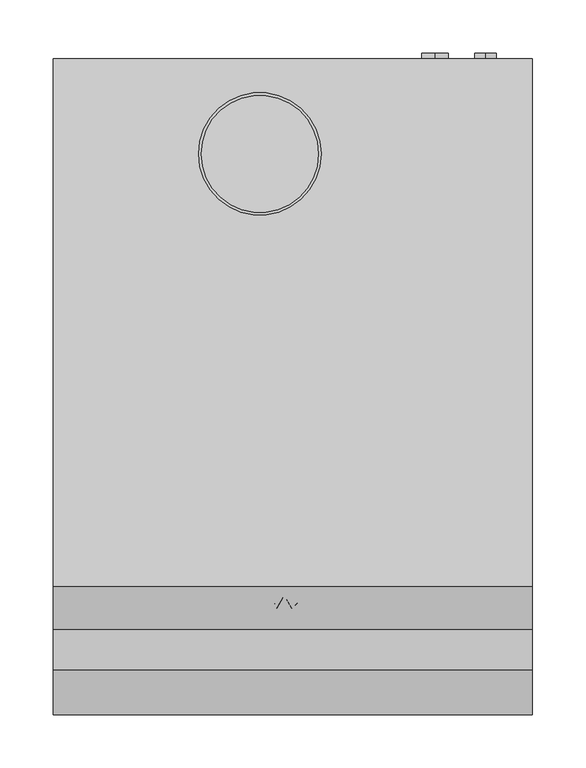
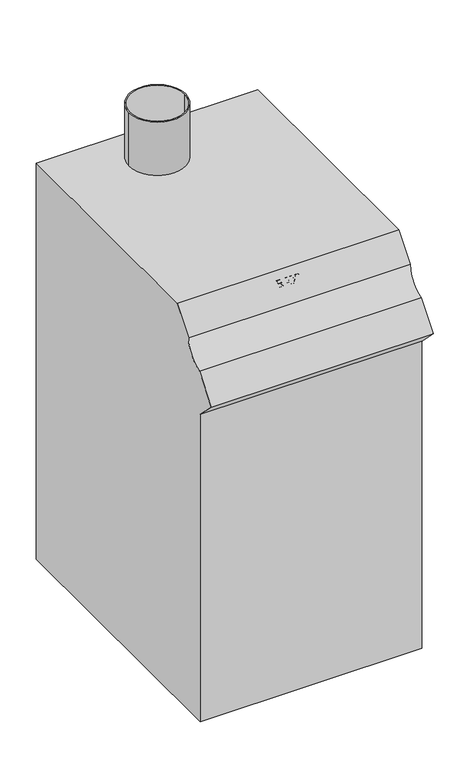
"""IFC4 building model written with IfcOpenShell, lengths in millimetres: proxy geometry, BAXI_ГазовыйКотел_Power_HT_45-150 : BAXI_Газовый котел_Power_HT_1.450."""

from ifc_helpers import new_model, si_unit, point, frame, frame_2d, origin, place, context, project, spatial, polyline, circle_curve, trimmed, segment, composite_curve, outline, extrude, source, transform, mapped, element, save


def mechanical_equipment_2752ba4d(model_context):
    return source(origin(), model_context, "Body", "SweptSolid", [
        extrude(outline(composite_curve([segment(polyline([(-5.0, 850.0), (-5.0, 0.0), (-581.0, 0.0), (-581.0, 660.0), (-621.0, 700.0), (-579.2660851, 752.0109492)]), True, "CONTINUOUS"), segment(trimmed(circle_curve(frame_2d((-591.6738547, 801.4105648)), 50.9340237), [point((-579.2660851, 752.0109492))], [point((-540.7593668, 800.0))], True, "CARTESIAN"), True, "CONTINUOUS"), segment(polyline([(-540.7593668, 800.0), (-500.6390502, 850.0), (-5.0, 850.0)]), True, "CONTINUOUS")], self_intersect=False)), frame((-225.0, 0.0, 0.0), z_axis=(1.0, 0.0, 0.0), x_axis=(0.0, 1.0, 0.0)), (0.0, 0.0, 1.0), 450.0),
        extrude(outline(composite_curve([segment(trimmed(circle_curve(frame_2d((346.0, 133.5)), 12.5), [point((333.5, 133.5))], [point((358.5, 133.5))], False, "CARTESIAN"), True, "CONTINUOUS"), segment(trimmed(circle_curve(frame_2d((346.0, 133.5)), 12.5), [point((358.5, 133.5))], [point((333.5, 133.5))], False, "CARTESIAN"), True, "CONTINUOUS")], self_intersect=False)), frame((0.0, -94.5, 0.0), z_axis=(0.0, 1.0, 0.0), x_axis=(0.0, 0.0, 1.0)), (0.0, 0.0, 1.0), 94.5),
        extrude(outline(composite_curve([segment(trimmed(circle_curve(frame_2d((186.0, 133.5)), 12.5), [point((173.5, 133.5))], [point((198.5, 133.5))], False, "CARTESIAN"), True, "CONTINUOUS"), segment(trimmed(circle_curve(frame_2d((186.0, 133.5)), 12.5), [point((198.5, 133.5))], [point((173.5, 133.5))], False, "CARTESIAN"), True, "CONTINUOUS")], self_intersect=False)), frame((0.0, -94.5, 0.0), z_axis=(0.0, 1.0, 0.0), x_axis=(0.0, 0.0, 1.0)), (0.0, 0.0, 1.0), 94.5),
        extrude(outline(composite_curve([segment(trimmed(circle_curve(frame_2d((476.0, 181.0)), 10.0), [point((466.0, 181.0))], [point((486.0, 181.0))], False, "CARTESIAN"), True, "CONTINUOUS"), segment(trimmed(circle_curve(frame_2d((476.0, 181.0)), 10.0), [point((486.0, 181.0))], [point((466.0, 181.0))], False, "CARTESIAN"), True, "CONTINUOUS")], self_intersect=False)), frame((0.0, -94.5, 0.0), z_axis=(0.0, 1.0, 0.0), x_axis=(0.0, 0.0, 1.0)), (0.0, 0.0, 1.0), 94.5),
        extrude(outline(composite_curve([segment(trimmed(circle_curve(frame_2d((65.3668634, 133.5)), 10.0), [point((55.3668634, 133.5))], [point((75.3668634, 133.5))], False, "CARTESIAN"), True, "CONTINUOUS"), segment(trimmed(circle_curve(frame_2d((65.3668634, 133.5)), 10.0), [point((75.3668634, 133.5))], [point((55.3668634, 133.5))], False, "CARTESIAN"), True, "CONTINUOUS")], self_intersect=False)), frame((0.0, -94.5, 0.0), z_axis=(0.0, 1.0, 0.0), x_axis=(0.0, 0.0, 1.0)), (0.0, 0.0, 1.0), 94.5),
        extrude(outline(composite_curve([segment(trimmed(circle_curve(frame_2d((-31.0, -94.5)), 57.5), [point((-88.5, -94.5))], [point((26.5, -94.5))], False, "CARTESIAN"), True, "CONTINUOUS"), segment(trimmed(circle_curve(frame_2d((-31.0, -94.5)), 57.5), [point((26.5, -94.5))], [point((-88.5, -94.5))], False, "CARTESIAN"), True, "CONTINUOUS")], self_intersect=False), holes=[composite_curve([segment(trimmed(circle_curve(frame_2d((-31.0, -94.5)), 55.0), [point((-86.0, -94.5))], [point((24.0, -94.5))], True, "CARTESIAN"), True, "CONTINUOUS"), segment(trimmed(circle_curve(frame_2d((-31.0, -94.5)), 55.0), [point((24.0, -94.5))], [point((-86.0, -94.5))], True, "CARTESIAN"), True, "CONTINUOUS")], self_intersect=False)]), frame((0.0, 0.0, 850.0), z_axis=(0.0, 0.0, 1.0), x_axis=(1.0, 0.0, 0.0)), (0.0, 0.0, 1.0), 115.0),
        extrude(outline(polyline([(0.0, 0.0), (6.281731, 0.0), (9.0620138, -0.1518243), (10.7017164, -0.7875886), (11.9068219, -2.0742997), (12.3888641, -3.8753157), (11.8138295, -5.856623), (10.2519369, -7.211655), (12.1952881, -8.5932563), (12.8747019, -10.889599), (12.3869663, -12.9107602), (11.054708, -14.4783463), (8.972817, -15.2014096), (5.2303477, -15.303891), (0.0, -15.303891), (0.0, 0.0)]), holes=[polyline([(2.9150268, -2.6721079), (2.9150268, -6.0729726), (5.1392531, -6.0729726), (7.6063982, -6.0236297), (4.8659693, -2.6721079), (2.9150268, -2.6721079)]), polyline([(2.9150268, -8.7450806), (2.9150268, -12.631783), (5.9970604, -12.631783), (8.2820164, -12.5406884), (5.6061128, -8.7450806), (2.9150268, -8.7450806)])]), frame((-29.1315163, -507.4782546, 833.487354), z_axis=(0.0, -0.7799524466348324, 0.6258387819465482), x_axis=(1.0, 0.0, 0.0)), (0.0, 0.0, 1.0), 5.0),
        extrude(outline(polyline([(0.0, 0.0), (3.0630555, 0.0), (4.2624676, -3.4008647), (10.0431784, -3.4008647), (11.2274081, 0.0), (14.3322153, 0.0), (8.7450805, -15.303891), (5.6402733, -15.303891), (0.0, 0.0)]), holes=[polyline([(5.1961872, -6.0729726), (7.1661077, -11.6601074), (9.1094589, -6.0729726), (5.1961872, -6.0729726)])]), frame((-0.9529234, -517.0560231, 821.5510468), z_axis=(0.0, -0.7799524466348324, 0.6258387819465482), x_axis=(-1.0, 0.0, 0.0)), (0.0, 0.0, 1.0), 5.0),
        extrude(outline(polyline([(0.0, 0.0), (9.5718736, 0.0), (13.0938513, 7.9370131), (14.9522751, 5.079771), (12.6996984, 0.0014133), (18.2552198, 0.0016435), (20.1136436, -2.8555986), (11.4302974, -2.8572421), (7.549588, -11.6071484), (5.6911642, -8.7499063), (8.3056546, -2.8565859), (1.8584238, -2.8572421), (0.0, 0.0)])), frame((-0.8314639, -517.0560231, 821.5510468), z_axis=(0.0, -0.7799524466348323, 0.6258387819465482), x_axis=(0.5452392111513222, 0.5246284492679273, 0.6538189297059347)), (0.0, 0.0, 1.0), 5.0),
        extrude(outline(polyline([(0.0, -2.9150269), (0.0, 0.0), (5.0, 0.0), (5.0, -2.9150269), (0.0, -2.9150269)])), frame((17.5089134, -517.0560231, 821.5510468), z_axis=(0.0, 0.6258387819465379, 0.7799524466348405), x_axis=(0.0, -0.7799524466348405, 0.6258387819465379)), (0.0, 0.0, 1.0), 15.303891),
    ])


if __name__ == "__main__":
    model = new_model("IFC4")
    model_context = context("Model", 3, world=origin())
    ifc_project = project(units=[si_unit("LENGTHUNIT", "METRE", prefix="MILLI")], contexts=[model_context])
    site = spatial("IfcSite", under=ifc_project)
    building = spatial("IfcBuilding", under=site)
    placement = place(None, origin())
    mechanical_equipment_shape = mechanical_equipment_2752ba4d(model_context)
    element("IfcBuildingElementProxy", 1, Name="BAXI_ГазовыйКотел_Power_HT_45-150 : BAXI_Газовый котел_Power_HT_1.450", ObjectType="BAXI_ГазовыйКотел_Power_HT_45-150 : BAXI_Газовый котел_Power_HT_1.450", at=placement, inside=building, context=model_context, shape_type="MappedRepresentation", body=[
        mapped(mechanical_equipment_shape, transform((0.0, 0.0, 0.0), x_axis=(1.0, 0.0, 0.0), y_axis=(0.0, 1.0, 0.0), z_axis=(0.0, 0.0, 1.0))),
    ])
    save(model, "model.ifc")
